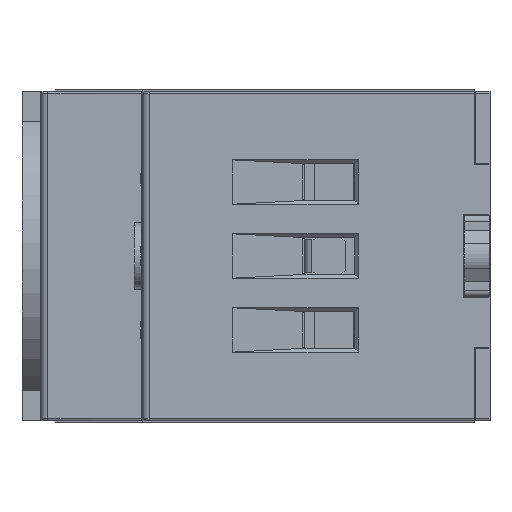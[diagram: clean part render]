
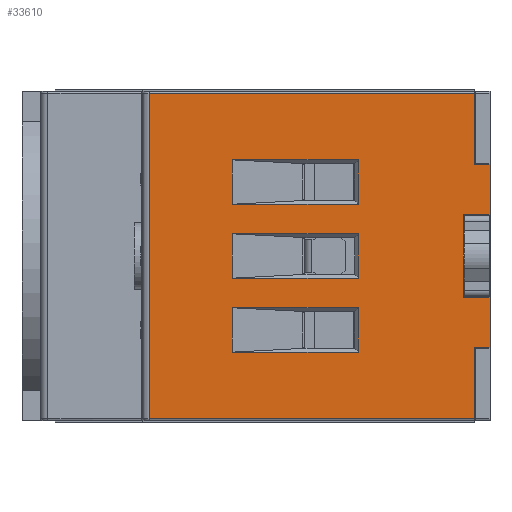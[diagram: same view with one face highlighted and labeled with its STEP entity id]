
A CAD part, left-side view. The second image highlights one B-rep face of the part: STEP entity #33610.
In plain terms, the highlighted planar face has unit normal (-1, 0, 0).
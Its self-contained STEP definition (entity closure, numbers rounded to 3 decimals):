
#6143=ORIENTED_EDGE('',*,*,#13730,.T.);
#6144=ORIENTED_EDGE('',*,*,#13731,.F.);
#6145=ORIENTED_EDGE('',*,*,#13732,.F.);
#6146=ORIENTED_EDGE('',*,*,#13733,.F.);
#6147=ORIENTED_EDGE('',*,*,#13734,.T.);
#6148=ORIENTED_EDGE('',*,*,#13735,.T.);
#6149=ORIENTED_EDGE('',*,*,#13736,.T.);
#6150=ORIENTED_EDGE('',*,*,#13737,.T.);
#6151=ORIENTED_EDGE('',*,*,#13567,.T.);
#6152=ORIENTED_EDGE('',*,*,#13571,.T.);
#6153=ORIENTED_EDGE('',*,*,#13738,.T.);
#6154=ORIENTED_EDGE('',*,*,#13739,.T.);
#6155=ORIENTED_EDGE('',*,*,#13740,.T.);
#6156=ORIENTED_EDGE('',*,*,#13741,.F.);
#6157=ORIENTED_EDGE('',*,*,#13742,.F.);
#6158=ORIENTED_EDGE('',*,*,#13743,.F.);
#6159=ORIENTED_EDGE('',*,*,#13744,.T.);
#6160=ORIENTED_EDGE('',*,*,#13745,.F.);
#6161=ORIENTED_EDGE('',*,*,#13746,.F.);
#6162=ORIENTED_EDGE('',*,*,#13747,.F.);
#6163=ORIENTED_EDGE('',*,*,#13748,.T.);
#6164=ORIENTED_EDGE('',*,*,#13749,.F.);
#6165=ORIENTED_EDGE('',*,*,#13750,.F.);
#6166=ORIENTED_EDGE('',*,*,#13751,.F.);
#13567=EDGE_CURVE('',#18017,#18018,#21627,.T.);
#13571=EDGE_CURVE('',#18018,#18021,#21631,.T.);
#13730=EDGE_CURVE('',#18161,#18162,#21762,.T.);
#13731=EDGE_CURVE('',#18163,#18162,#21763,.T.);
#13732=EDGE_CURVE('',#18164,#18163,#21764,.T.);
#13733=EDGE_CURVE('',#18165,#18164,#21765,.T.);
#13734=EDGE_CURVE('',#18165,#18166,#21766,.T.);
#13735=EDGE_CURVE('',#18166,#18167,#21767,.T.);
#13736=EDGE_CURVE('',#18167,#18168,#21768,.T.);
#13737=EDGE_CURVE('',#18168,#18017,#21769,.T.);
#13738=EDGE_CURVE('',#18021,#18169,#21770,.T.);
#13739=EDGE_CURVE('',#18169,#18161,#21771,.T.);
#13740=EDGE_CURVE('',#18170,#18171,#21772,.T.);
#13741=EDGE_CURVE('',#18172,#18171,#21773,.T.);
#13742=EDGE_CURVE('',#18173,#18172,#21774,.T.);
#13743=EDGE_CURVE('',#18170,#18173,#21775,.T.);
#13744=EDGE_CURVE('',#18174,#18175,#21776,.T.);
#13745=EDGE_CURVE('',#18176,#18175,#21777,.T.);
#13746=EDGE_CURVE('',#18177,#18176,#21778,.T.);
#13747=EDGE_CURVE('',#18174,#18177,#21779,.T.);
#13748=EDGE_CURVE('',#18178,#18179,#21780,.T.);
#13749=EDGE_CURVE('',#18180,#18179,#21781,.T.);
#13750=EDGE_CURVE('',#18181,#18180,#21782,.T.);
#13751=EDGE_CURVE('',#18178,#18181,#21783,.T.);
#18017=VERTEX_POINT('',#62048);
#18018=VERTEX_POINT('',#62049);
#18021=VERTEX_POINT('',#62057);
#18161=VERTEX_POINT('',#62399);
#18162=VERTEX_POINT('',#62400);
#18163=VERTEX_POINT('',#62402);
#18164=VERTEX_POINT('',#62404);
#18165=VERTEX_POINT('',#62406);
#18166=VERTEX_POINT('',#62408);
#18167=VERTEX_POINT('',#62410);
#18168=VERTEX_POINT('',#62412);
#18169=VERTEX_POINT('',#62415);
#18170=VERTEX_POINT('',#62418);
#18171=VERTEX_POINT('',#62419);
#18172=VERTEX_POINT('',#62421);
#18173=VERTEX_POINT('',#62423);
#18174=VERTEX_POINT('',#62426);
#18175=VERTEX_POINT('',#62427);
#18176=VERTEX_POINT('',#62429);
#18177=VERTEX_POINT('',#62431);
#18178=VERTEX_POINT('',#62434);
#18179=VERTEX_POINT('',#62435);
#18180=VERTEX_POINT('',#62437);
#18181=VERTEX_POINT('',#62439);
#21627=LINE('',#62047,#25504);
#21631=LINE('',#62056,#25508);
#21762=LINE('',#62398,#25639);
#21763=LINE('',#62401,#25640);
#21764=LINE('',#62403,#25641);
#21765=LINE('',#62405,#25642);
#21766=LINE('',#62407,#25643);
#21767=LINE('',#62409,#25644);
#21768=LINE('',#62411,#25645);
#21769=LINE('',#62413,#25646);
#21770=LINE('',#62414,#25647);
#21771=LINE('',#62416,#25648);
#21772=LINE('',#62417,#25649);
#21773=LINE('',#62420,#25650);
#21774=LINE('',#62422,#25651);
#21775=LINE('',#62424,#25652);
#21776=LINE('',#62425,#25653);
#21777=LINE('',#62428,#25654);
#21778=LINE('',#62430,#25655);
#21779=LINE('',#62432,#25656);
#21780=LINE('',#62433,#25657);
#21781=LINE('',#62436,#25658);
#21782=LINE('',#62438,#25659);
#21783=LINE('',#62440,#25660);
#25504=VECTOR('',#50229,1000.);
#25508=VECTOR('',#50235,1000.);
#25639=VECTOR('',#50508,1000.);
#25640=VECTOR('',#50509,1000.);
#25641=VECTOR('',#50510,1000.);
#25642=VECTOR('',#50511,1000.);
#25643=VECTOR('',#50512,1000.);
#25644=VECTOR('',#50513,1000.);
#25645=VECTOR('',#50514,1000.);
#25646=VECTOR('',#50515,1000.);
#25647=VECTOR('',#50516,1000.);
#25648=VECTOR('',#50517,1000.);
#25649=VECTOR('',#50518,1000.);
#25650=VECTOR('',#50519,1000.);
#25651=VECTOR('',#50520,1000.);
#25652=VECTOR('',#50521,1000.);
#25653=VECTOR('',#50522,1000.);
#25654=VECTOR('',#50523,1000.);
#25655=VECTOR('',#50524,1000.);
#25656=VECTOR('',#50525,1000.);
#25657=VECTOR('',#50526,1000.);
#25658=VECTOR('',#50527,1000.);
#25659=VECTOR('',#50528,1000.);
#25660=VECTOR('',#50529,1000.);
#28623=EDGE_LOOP('',(#6143,#6144,#6145,#6146,#6147,#6148,#6149,#6150,#6151,
#6152,#6153,#6154));
#28624=EDGE_LOOP('',(#6155,#6156,#6157,#6158));
#28625=EDGE_LOOP('',(#6159,#6160,#6161,#6162));
#28626=EDGE_LOOP('',(#6163,#6164,#6165,#6166));
#30578=FACE_BOUND('',#28623,.T.);
#30579=FACE_BOUND('',#28624,.T.);
#30580=FACE_BOUND('',#28625,.T.);
#30581=FACE_BOUND('',#28626,.T.);
#32139=PLANE('',#45854);
#33610=ADVANCED_FACE('',(#30578,#30579,#30580,#30581),#32139,.T.);
#45854=AXIS2_PLACEMENT_3D('',#62397,#50506,#50507);
#50229=DIRECTION('',(0.,0.,1.));
#50235=DIRECTION('',(0.,-1.,0.));
#50506=DIRECTION('',(-1.,0.,0.));
#50507=DIRECTION('',(0.,0.,1.));
#50508=DIRECTION('',(0.,0.,1.));
#50509=DIRECTION('',(0.,-1.,0.));
#50510=DIRECTION('',(0.,0.,1.));
#50511=DIRECTION('',(0.,1.,0.));
#50512=DIRECTION('',(0.,0.,1.));
#50513=DIRECTION('',(0.,-1.,0.));
#50514=DIRECTION('',(0.,0.,1.));
#50515=DIRECTION('',(0.,1.,0.));
#50516=DIRECTION('',(0.,0.,1.));
#50517=DIRECTION('',(0.,1.,0.));
#50518=DIRECTION('',(0.,0.,1.));
#50519=DIRECTION('',(0.,1.,0.));
#50520=DIRECTION('',(0.,0.,1.));
#50521=DIRECTION('',(0.,-1.,0.));
#50522=DIRECTION('',(0.,0.,1.));
#50523=DIRECTION('',(0.,1.,0.));
#50524=DIRECTION('',(0.,0.,1.));
#50525=DIRECTION('',(0.,-1.,0.));
#50526=DIRECTION('',(0.,0.,1.));
#50527=DIRECTION('',(0.,1.,0.));
#50528=DIRECTION('',(0.,0.,1.));
#50529=DIRECTION('',(0.,-1.,0.));
#62047=CARTESIAN_POINT('',(-37.5,0.,85.95));
#62048=CARTESIAN_POINT('',(-37.5,0.,94.4));
#62049=CARTESIAN_POINT('',(-37.5,0.,105.6));
#62056=CARTESIAN_POINT('',(-37.5,-1.8,105.6));
#62057=CARTESIAN_POINT('',(-37.5,-3.6,105.6));
#62397=CARTESIAN_POINT('',(-37.5,-3.6,77.5));
#62398=CARTESIAN_POINT('',(-37.5,-1.5,100.));
#62399=CARTESIAN_POINT('',(-37.5,-1.5,112.4));
#62400=CARTESIAN_POINT('',(-37.5,-1.5,122.));
#62401=CARTESIAN_POINT('',(-37.5,8.175,122.));
#62402=CARTESIAN_POINT('',(-37.5,42.5,122.));
#62403=CARTESIAN_POINT('',(-37.5,42.5,100.));
#62404=CARTESIAN_POINT('',(-37.5,42.5,78.));
#62405=CARTESIAN_POINT('',(-37.5,8.175,78.));
#62406=CARTESIAN_POINT('',(-37.5,-1.5,78.));
#62407=CARTESIAN_POINT('',(-37.5,-1.5,100.));
#62408=CARTESIAN_POINT('',(-37.5,-1.5,87.6));
#62409=CARTESIAN_POINT('',(-37.5,-1.5,87.6));
#62410=CARTESIAN_POINT('',(-37.5,-3.6,87.6));
#62411=CARTESIAN_POINT('',(-37.5,-3.6,87.6));
#62412=CARTESIAN_POINT('',(-37.5,-3.6,94.4));
#62413=CARTESIAN_POINT('',(-37.5,-3.6,94.4));
#62414=CARTESIAN_POINT('',(-37.5,-3.6,105.6));
#62415=CARTESIAN_POINT('',(-37.5,-3.6,112.4));
#62416=CARTESIAN_POINT('',(-37.5,-3.6,112.4));
#62417=CARTESIAN_POINT('',(-37.5,31.241,93.75));
#62418=CARTESIAN_POINT('',(-37.5,31.241,107.));
#62419=CARTESIAN_POINT('',(-37.5,31.241,113.));
#62420=CARTESIAN_POINT('',(-37.5,9.05,113.));
#62421=CARTESIAN_POINT('',(-37.5,14.2,113.));
#62422=CARTESIAN_POINT('',(-37.5,14.2,95.));
#62423=CARTESIAN_POINT('',(-37.5,14.2,107.));
#62424=CARTESIAN_POINT('',(-37.5,5.55,107.));
#62425=CARTESIAN_POINT('',(-37.5,31.241,88.75));
#62426=CARTESIAN_POINT('',(-37.5,31.241,97.));
#62427=CARTESIAN_POINT('',(-37.5,31.241,103.));
#62428=CARTESIAN_POINT('',(-37.5,9.05,103.));
#62429=CARTESIAN_POINT('',(-37.5,14.2,103.));
#62430=CARTESIAN_POINT('',(-37.5,14.2,90.));
#62431=CARTESIAN_POINT('',(-37.5,14.2,97.));
#62432=CARTESIAN_POINT('',(-37.5,5.55,97.));
#62433=CARTESIAN_POINT('',(-37.5,31.241,83.75));
#62434=CARTESIAN_POINT('',(-37.5,31.241,87.));
#62435=CARTESIAN_POINT('',(-37.5,31.241,93.));
#62436=CARTESIAN_POINT('',(-37.5,9.05,93.));
#62437=CARTESIAN_POINT('',(-37.5,14.2,93.));
#62438=CARTESIAN_POINT('',(-37.5,14.2,85.));
#62439=CARTESIAN_POINT('',(-37.5,14.2,87.));
#62440=CARTESIAN_POINT('',(-37.5,5.55,87.));
